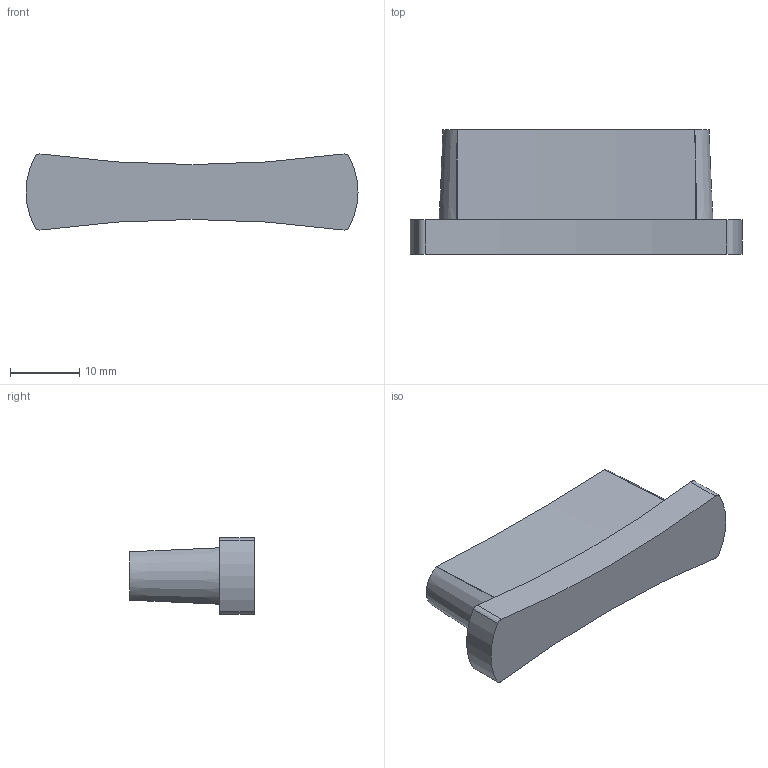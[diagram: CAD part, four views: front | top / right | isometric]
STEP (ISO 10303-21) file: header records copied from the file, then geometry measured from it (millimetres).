
FILE_DESCRIPTION( ( '' ), '1' );
FILE_NAME( 'D:/1.AUTOCAD EXPORT/Group 10/sheet_10_1/9995493.stp', '2013-10-16T09:14:49', ( '' ), ( '' ), ' ', ' ', ' ' );
FILE_SCHEMA( ( 'automotive_design' ) );
Length unit declared in the file: millimetre
Products named in the file (1): 1
Bounding box: 48 x 18 x 11 mm (x, y, z)
Volume: 5356.3 mm3; surface area: 2712.2 mm2
Topology: 1 solids, 1 shells, 25 faces, 56 edges, 36 vertices
Faces by surface type: cylinder 12, cone 8, plane 5
Entity records: 1402 total; most frequent: DIRECTION 140, CARTESIAN_POINT 130, STYLED_ITEM 118, PRESENTATION_STYLE_ASSIGNMENT 118, COLOUR_RGB 118, ORIENTED_EDGE 112, AXIS2_PLACEMENT_3D 62, EDGE_CURVE 56
